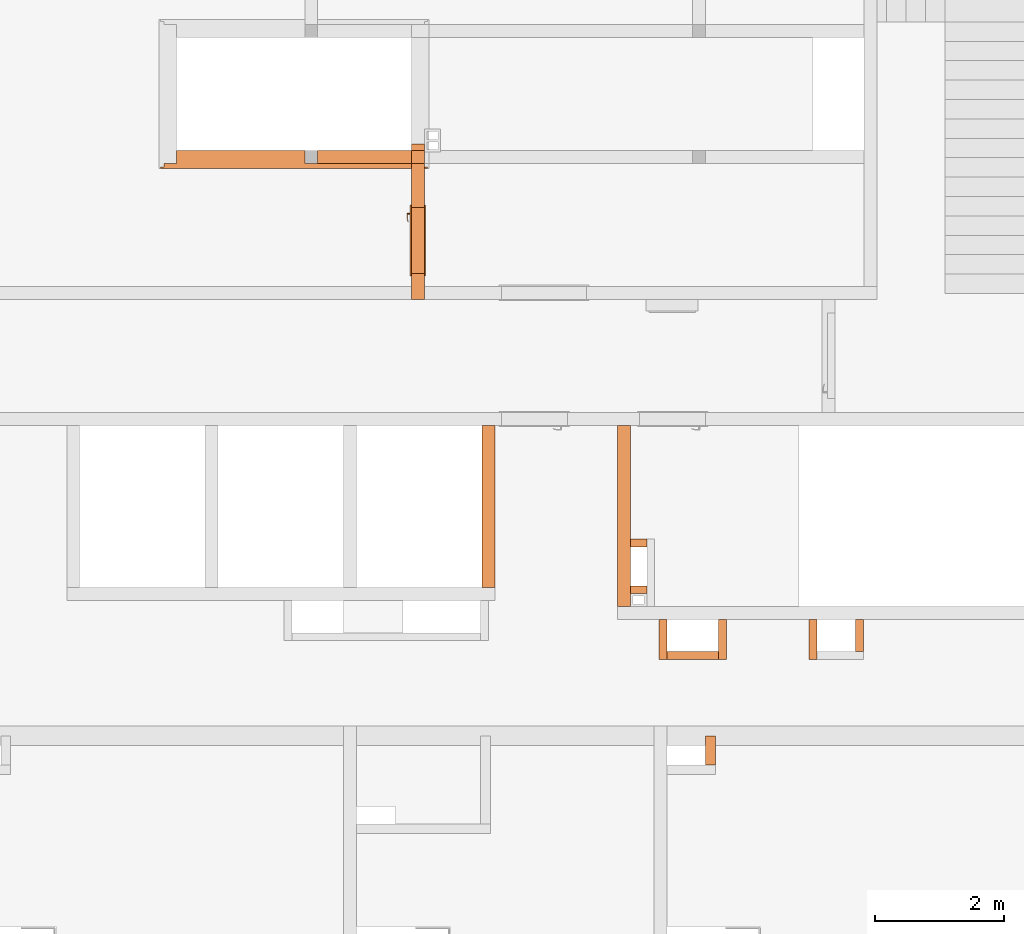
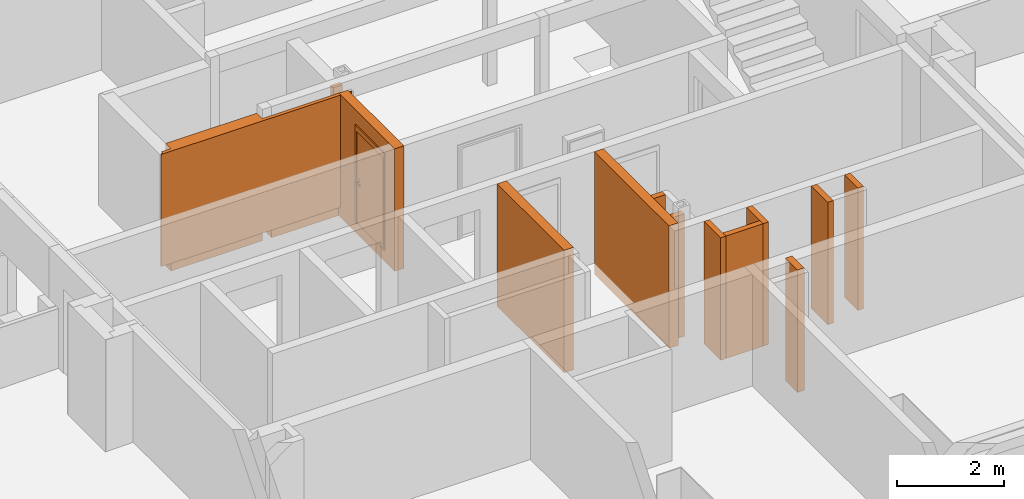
# One storey, part 20 of 30: 13 proxies, 1 opening.
"""IFC2X3 building model written with IfcOpenShell, lengths in millimetres."""

from ifc_helpers import new_model, entity, si_unit, converted_unit, derived_unit, money_unit, direction, frame, origin_with_axes, origin_2d_with_axis, place, context, subcontext, project, spatial, rectangle, extrude, open_shell, faceted_brep, surface_model, material, material_list, type_object, element, fill, save


model = new_model("IFC2X3")

# Units and contexts
model_context = context("Model", 3, precision=0.01, world=origin_with_axes(), true_north=direction((0.34421633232, 0.938890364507)))
body_context = subcontext(model_context, "Body", "Model", "MODEL_VIEW")
ifc_project = project(units=[si_unit("LENGTHUNIT", "METRE", prefix="MILLI"), si_unit("AREAUNIT", "SQUARE_METRE"), si_unit("VOLUMEUNIT", "CUBIC_METRE"), converted_unit("PLANEANGLEUNIT", "DEGREE", entity("IfcPlaneAngleMeasure", 0.0174532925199), si_unit("PLANEANGLEUNIT", "RADIAN"), dimensions=[0, 0, 0, 0, 0, 0, 0]), si_unit("SOLIDANGLEUNIT", "STERADIAN"), money_unit("USD"), converted_unit("TIMEUNIT", "Year", entity("IfcTimeMeasure", 31556926.0), si_unit("TIMEUNIT", "SECOND"), dimensions=[0, 0, 1, 0, 0, 0, 0]), si_unit("MASSUNIT", "GRAM", prefix="KILO"), si_unit("THERMODYNAMICTEMPERATUREUNIT", "DEGREE_CELSIUS"), si_unit("LUMINOUSINTENSITYUNIT", "LUMEN"), si_unit("ENERGYUNIT", "JOULE", prefix="MEGA"), derived_unit("THERMALCONDUCTANCEUNIT", [(si_unit("POWERUNIT", "WATT"), 1), (si_unit("LENGTHUNIT", "METRE"), -1), (si_unit("THERMODYNAMICTEMPERATUREUNIT", "KELVIN"), -1)]), derived_unit("SPECIFICHEATCAPACITYUNIT", [(si_unit("ENERGYUNIT", "JOULE"), 1), (si_unit("MASSUNIT", "GRAM", prefix="KILO"), -1), (si_unit("THERMODYNAMICTEMPERATUREUNIT", "KELVIN"), -1)]), derived_unit("MASSDENSITYUNIT", [(si_unit("MASSUNIT", "GRAM", prefix="KILO"), 1), (si_unit("VOLUMEUNIT", "CUBIC_METRE"), -1)])], contexts=[model_context])

# Site, building, storey
site_placement = place(None, origin_with_axes())
site = spatial("IfcSite", under=ifc_project, at=site_placement, Name="USTRONIE MORSKIE", CompositionType="ELEMENT")
building_placement = place(site_placement, origin_with_axes())
building = spatial("IfcBuilding", under=site, at=building_placement, Name="Budynek", CompositionType="ELEMENT")
storey_placement = place(building_placement, frame((0.0, 0.0, 16000.0), z_axis=(0.0, 0.0, 1.0), x_axis=(1.0, 0.0, 0.0)))
storey = spatial("IfcBuildingStorey", under=building, at=storey_placement, Name="ANTRESOLA - KOND. TECHNICZNA", CompositionType="ELEMENT", Elevation=16000.0)

# Proxies
ifc_material_1 = material(Name="Bloczki silikatowe")
building_element_proxy_type_1 = type_object("IfcBuildingElementProxyType", Name="Bloczki silikatowe 120", PredefinedType="NOTDEFINED")
proxy_1_placement = place(storey_placement, frame((390317.920919, 729201.199036, -160.0), z_axis=(0.0, 0.0, 1.0), x_axis=(1.0, 0.0, 0.0)))
element("IfcBuildingElementProxy", 1, at=proxy_1_placement, inside=storey, type_object=building_element_proxy_type_1, material=ifc_material_1, Name="SW-04", context=body_context, shape_type="Brep", body=[
    faceted_brep([(800.00090117, -120.0, 2800.0), (800.00090117, 0.0, 2800.0), (0.0, 0.0, 2800.0), (0.0, -120.0, 2800.0), (800.00090117, -120.0, 0.0), (800.00090117, 0.0, 0.0), (0.0, 0.0, 0.0), (0.0, -120.0, 0.0)], [[[0, 1, 2, 3]], [[1, 0, 4, 5]], [[1, 5, 6, 2]], [[7, 3, 2, 6]], [[4, 0, 3, 7]], [[5, 4, 7, 6]]]),
])
proxy_2_placement = place(storey_placement, frame((392637.920919, 729801.199036, -160.0), z_axis=(0.0, 0.0, 1.0), x_axis=(0.0, -1.0, 0.0)))
element("IfcBuildingElementProxy", 2, at=proxy_2_placement, inside=storey, type_object=building_element_proxy_type_1, material=ifc_material_1, Name="SW-04", context=body_context, shape_type="Brep", body=[
    faceted_brep([(720.0, -120.0, 2800.0), (720.0, 0.0, 2800.0), (100.0, 0.0, 2800.0), (100.0, -120.0, 2800.0), (720.0, -120.0, 0.0), (720.0, 0.0, 0.0), (100.0, 0.0, 0.0), (100.0, -120.0, 0.0)], [[[0, 1, 2, 3]], [[1, 0, 4, 5]], [[1, 5, 6, 2]], [[7, 3, 2, 6]], [[4, 0, 3, 7]], [[5, 4, 7, 6]]]),
])
proxy_3_placement = place(storey_placement, frame((393237.920919, 729201.199036, -160.0), z_axis=(0.0, 0.0, 1.0), x_axis=(0.0, 1.0, 0.0)))
element("IfcBuildingElementProxy", 3, at=proxy_3_placement, inside=storey, type_object=building_element_proxy_type_1, material=ifc_material_1, Name="SW-04", context=body_context, shape_type="Brep", body=[
    faceted_brep([(500.0, -120.0, 2800.0), (500.0, 0.0, 2800.0), (0.0, 0.0, 2800.0), (0.0, -120.0, 2800.0), (500.0, -120.0, 0.0), (500.0, 0.0, 0.0), (0.0, 0.0, 0.0), (0.0, -120.0, 0.0)], [[[0, 1, 2, 3]], [[1, 0, 4, 5]], [[1, 5, 6, 2]], [[7, 3, 2, 6]], [[4, 0, 3, 7]], [[5, 4, 7, 6]]]),
])
proxy_4_placement = place(storey_placement, frame((390317.920919, 729801.199036, -160.0), z_axis=(0.0, 0.0, 1.0), x_axis=(0.0, -1.0, 0.0)))
element("IfcBuildingElementProxy", 4, at=proxy_4_placement, inside=storey, type_object=building_element_proxy_type_1, material=ifc_material_1, Name="SW-04", context=body_context, shape_type="Brep", body=[
    faceted_brep([(720.0, -120.0, 2800.0), (720.0, 0.0, 2800.0), (100.0, 0.0, 2800.0), (100.0, -120.0, 2800.0), (720.0, -120.0, 0.0), (720.0, 0.0, 0.0), (100.0, 0.0, 0.0), (100.0, -120.0, 0.0)], [[[0, 1, 2, 3]], [[1, 0, 4, 5]], [[1, 5, 6, 2]], [[7, 3, 2, 6]], [[4, 0, 3, 7]], [[5, 4, 7, 6]]]),
])
proxy_5_placement = place(storey_placement, frame((391117.92182, 729801.199036, -160.0), z_axis=(0.0, 0.0, 1.0), x_axis=(0.0, -1.0, 0.0)))
element("IfcBuildingElementProxy", 5, at=proxy_5_placement, inside=storey, type_object=building_element_proxy_type_1, material=ifc_material_1, Name="SW-04", context=body_context, shape_type="Brep", body=[
    faceted_brep([(720.0, 120.0, 0.0), (720.0, 0.0, 0.0), (100.0, 0.0, 0.0), (100.0, 120.0, 0.0), (720.0, 120.0, 2800.0), (720.0, 0.0, 2800.0), (100.0, 0.0, 2800.0), (100.0, 120.0, 2800.0)], [[[0, 1, 2, 3]], [[1, 0, 4, 5]], [[1, 5, 6, 2]], [[7, 3, 2, 6]], [[4, 0, 3, 7]], [[5, 4, 7, 6]]]),
])
for number, where, z_axis, x_axis, name in (
    (6, (389757.920919, 730821.199036, -230.0), (0.0, 0.0, 1.0), (1.0, 0.0, 0.0), "SW-04"),
    (7, (389757.920919, 730101.199036, -230.0), (0.0, 0.0, 1.0), (1.0, 0.0, 0.0), "SW-04"),
):
    element("IfcBuildingElementProxy", number, at=place(storey_placement, frame(where, z_axis=z_axis, x_axis=x_axis)), inside=storey, type_object=building_element_proxy_type_1, material=ifc_material_1, Name=name, context=body_context, shape_type="Brep", body=[
        faceted_brep([(250.0, 0.0, 2870.0), (250.0, 0.0, 70.0), (250.0, 120.0, 70.0), (250.0, 120.0, 2870.0), (0.0, 0.0, 2870.0), (0.0, 0.0, 70.0), (0.0, 120.0, 70.0), (0.0, 120.0, 2870.0)], [[[0, 1, 2, 3]], [[4, 5, 1, 0]], [[5, 6, 2, 1]], [[3, 2, 6, 7]], [[4, 0, 3, 7]], [[7, 6, 5, 4]]]),
    ])
building_element_proxy_type_2 = type_object("IfcBuildingElementProxyType", Name="Bloczki silikatowe 150", PredefinedType="NOTDEFINED")
proxy_6_placement = place(storey_placement, frame((390917.92182, 727451.199036, -160.0), z_axis=(0.0, 0.0, 1.0), x_axis=(0.0, 1.0, 0.0)))
element("IfcBuildingElementProxy", 8, at=proxy_6_placement, inside=storey, type_object=building_element_proxy_type_2, material=ifc_material_1, Name="SW-03", context=body_context, shape_type="Brep", body=[
    faceted_brep([(450.0, -150.0, 2800.0), (450.0, 0.0, 2800.0), (0.0, 0.0, 2800.0), (0.0, -150.0, 2800.0), (450.0, -150.0, 0.0), (450.0, 0.0, 0.0), (0.0, 0.0, 0.0), (0.0, -150.0, 0.0)], [[[0, 1, 2, 3]], [[1, 0, 4, 5]], [[1, 5, 6, 2]], [[7, 3, 2, 6]], [[4, 0, 3, 7]], [[5, 4, 7, 6]]]),
])
ifc_material_2 = material(Name="Beton konstrukcyjny B25")
building_element_proxy_type_3 = type_object("IfcBuildingElementProxyType", Name="Beton konstrukcyjny B25 200", PredefinedType="NOTDEFINED")
proxy_7_placement = place(storey_placement, frame((389657.920919, 729801.199036, -160.0), z_axis=(0.0, 0.0, 1.0), x_axis=(0.0, 1.0, 0.0)))
element("IfcBuildingElementProxy", 9, at=proxy_7_placement, inside=storey, type_object=building_element_proxy_type_3, material=ifc_material_2, Name="SW-01", context=body_context, shape_type="Brep", body=[
    faceted_brep([(2900.0, 100.0, 0.0), (2900.0, -100.0, 0.0), (100.0, -100.0, 0.0), (100.0, 100.0, 0.0), (2900.0, 100.0, 2800.0), (2900.0, -100.0, 2800.0), (100.0, -100.0, 2800.0), (100.0, 100.0, 2800.0)], [[[0, 1, 2, 3]], [[1, 0, 4, 5]], [[1, 5, 6, 2]], [[7, 3, 2, 6]], [[4, 0, 3, 7]], [[5, 4, 7, 6]]]),
])
proxy_8_placement = place(storey_placement, frame((387557.920919, 730091.199036, -160.0), z_axis=(0.0, 0.0, 1.0), x_axis=(0.0, 1.0, 0.0)))
element("IfcBuildingElementProxy", 10, at=proxy_8_placement, inside=storey, type_object=building_element_proxy_type_3, material=ifc_material_2, Name="SW-01", context=body_context, shape_type="Brep", body=[
    faceted_brep([(2610.0, 100.0, 0.0), (2610.0, -100.0, 0.0), (100.0, -100.0, 0.0), (100.0, 100.0, 0.0), (2610.0, 100.0, 2800.0), (2610.0, -100.0, 2800.0), (100.0, -100.0, 2800.0), (100.0, 100.0, 2800.0)], [[[0, 1, 2, 3]], [[1, 0, 4, 5]], [[1, 5, 6, 2]], [[7, 3, 2, 6]], [[4, 0, 3, 7]], [[5, 4, 7, 6]]]),
])

# Proxies, opening
proxy_9_placement = place(storey_placement, frame((386467.920919, 736851.199036, -160.0), z_axis=(0.0, 0.0, 1.0), x_axis=(0.0, -1.0, 0.0)))
proxy_9 = element("IfcBuildingElementProxy", 11, at=proxy_9_placement, inside=storey, type_object=building_element_proxy_type_3, material=ifc_material_2, Name="SW-01", context=body_context, shape_type="Brep", body=[
    faceted_brep([(-200.0, -100.0, 2800.0), (-100.0, -100.0, 2800.0), (-100.0, 100.0, 2800.0), (-200.0, 100.0, 2800.0), (100.0, -100.0, 2600.0), (-100.0, -100.0, 2600.0), (-200.0, -100.0, 0.0), (2199.99526878, -100.0, 0.0), (2199.99526878, -100.0, 2800.0), (100.0, -100.0, 2800.0), (-100.0, 100.0, 2600.0), (100.0, 100.0, 2600.0), (100.0, 100.0, 2800.0), (2199.99526878, 100.0, 2800.0), (2199.99526878, 100.0, 0.0), (-200.0, 100.0, 0.0)], [[[0, 1, 2, 3]], [[4, 5, 1, 0, 6, 7, 8, 9]], [[5, 10, 2, 1]], [[10, 11, 12, 13, 14, 15, 3, 2]], [[15, 6, 0, 3]], [[4, 11, 10, 5]], [[14, 7, 6, 15]], [[14, 13, 8, 7]], [[13, 12, 9, 8]], [[4, 9, 12, 11]]]),
])
opening_placement = place(proxy_9_placement, frame((1289.99757548, 0.0, 250.0), z_axis=(0.0, 0.0, 1.0), x_axis=(1.0, 0.0, 0.0)))
opening = element("IfcOpeningElement", 12, at=opening_placement, cuts=proxy_9, Name="Dw.02", context=body_context, shape_type="SweptSolid", body=[
    extrude(rectangle(XDim=1020.0, YDim=2120.0, at=origin_2d_with_axis()), frame((0.0, 200.0, 1060.0), z_axis=(0.0, 1.0, 0.0), x_axis=(1.0, 0.0, 0.0)), (0.0, 0.0, -1.0), 600.0),
    extrude(rectangle(XDim=1094.0, YDim=2227.0, at=origin_2d_with_axis()), frame((0.0, 100.0, 1113.5), z_axis=(0.0, 1.0, 0.0), x_axis=(1.0, 0.0, 0.0)), (0.0, 0.0, 1.0), 200.0),
    extrude(rectangle(XDim=1094.0, YDim=2227.0, at=origin_2d_with_axis()), frame((0.0, -100.0, 1113.5), z_axis=(0.0, -1.0, 0.0), x_axis=(1.0, 0.0, 0.0)), (0.0, 0.0, 1.0), 200.0),
])
building_element_proxy_type_4 = type_object("IfcBuildingElementProxyType", Name="Drzwi 23", PredefinedType="NOTDEFINED")
proxy_10_placement = place(opening_placement, frame((450.0, 0.0, 0.0), z_axis=(0.0, 0.0, 1.0), x_axis=(-1.0, 0.0, 0.0)))
proxy_10 = element("IfcBuildingElementProxy", 13, at=proxy_10_placement, inside=storey, type_object=building_element_proxy_type_4, Name="Dw.02", context=body_context, shape_type="SurfaceModel", body=[
    faceted_brep([(960.0, -15.0, 0.0), (960.0, -100.0, 0.0), (935.0, -100.0, 0.0), (935.0, -15.0, 0.0), (960.0, -15.0, 2120.0), (960.0, -100.0, 2120.0), (935.0, -100.0, 2095.0), (935.0, -15.0, 2095.0)], [[[0, 1, 2, 3]], [[4, 5, 1, 0]], [[1, 5, 6, 2]], [[3, 2, 6, 7]], [[0, 3, 7, 4]], [[7, 6, 5, 4]]]),
    faceted_brep([(-59.9999999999, -15.0, 2120.0), (-59.9999999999, -100.0, 2120.0), (-35.0, -100.0, 2095.0), (-35.0, -15.0, 2095.0), (-59.9999999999, -15.0, 0.0), (-59.9999999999, -100.0, 0.0), (-35.0, -100.0, 0.0), (-35.0, -15.0, 0.0)], [[[0, 1, 2, 3]], [[4, 5, 1, 0]], [[1, 5, 6, 2]], [[3, 2, 6, 7]], [[0, 3, 7, 4]], [[7, 6, 5, 4]]]),
    faceted_brep([(935.0, -15.0, 2095.0), (935.0, -100.0, 2095.0), (-35.0, -100.0, 2095.0), (-35.0, -15.0, 2095.0), (960.0, -15.0, 2120.0), (960.0, -100.0, 2120.0), (-59.9999999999, -100.0, 2120.0), (-59.9999999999, -15.0, 2120.0)], [[[0, 1, 2, 3]], [[4, 5, 1, 0]], [[1, 5, 6, 2]], [[3, 2, 6, 7]], [[0, 3, 7, 4]], [[7, 6, 5, 4]]]),
    faceted_brep([(997.0, -119.0, 0.0), (947.0, -119.0, 0.0), (947.0, -100.0, 0.0), (997.0, -100.0, 0.0), (997.0, -119.0, 2227.0), (947.0, -119.0, 2107.0), (947.0, -100.0, 2107.0), (997.0, -100.0, 2227.0)], [[[0, 1, 2, 3]], [[0, 4, 5, 1]], [[1, 5, 6, 2]], [[3, 2, 6, 7]], [[4, 0, 3, 7]], [[5, 4, 7, 6]]]),
    faceted_brep([(-97.0, -119.0, 2227.0), (-46.9999999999, -119.0, 2107.0), (-46.9999999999, -100.0, 2107.0), (-97.0, -100.0, 2227.0), (-97.0, -119.0, 0.0), (-46.9999999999, -119.0, 0.0), (-46.9999999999, -100.0, 0.0), (-97.0, -100.0, 0.0)], [[[0, 1, 2, 3]], [[0, 4, 5, 1]], [[1, 5, 6, 2]], [[3, 2, 6, 7]], [[4, 0, 3, 7]], [[5, 4, 7, 6]]]),
    faceted_brep([(997.0, -119.0, 2227.0), (947.0, -119.0, 2107.0), (947.0, -100.0, 2107.0), (997.0, -100.0, 2227.0), (-97.0, -119.0, 2227.0), (-46.9999999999, -119.0, 2107.0), (-46.9999999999, -100.0, 2107.0), (-97.0, -100.0, 2227.0)], [[[0, 1, 2, 3]], [[0, 4, 5, 1]], [[1, 5, 6, 2]], [[3, 2, 6, 7]], [[4, 0, 3, 7]], [[5, 4, 7, 6]]]),
    faceted_brep([(997.0, 119.0, 0.0), (997.0, 100.0, 0.0), (947.0, 100.0, 0.0), (947.0, 119.0, 0.0), (997.0, 119.0, 2227.0), (997.0, 100.0, 2227.0), (947.0, 100.0, 2107.0), (947.0, 119.0, 2107.0)], [[[0, 1, 2, 3]], [[4, 5, 1, 0]], [[1, 5, 6, 2]], [[3, 2, 6, 7]], [[0, 3, 7, 4]], [[7, 6, 5, 4]]]),
    faceted_brep([(-97.0, 119.0, 2227.0), (-97.0, 100.0, 2227.0), (-46.9999999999, 100.0, 2107.0), (-46.9999999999, 119.0, 2107.0), (-97.0, 119.0, 0.0), (-97.0, 100.0, 0.0), (-46.9999999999, 100.0, 0.0), (-46.9999999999, 119.0, 0.0)], [[[0, 1, 2, 3]], [[4, 5, 1, 0]], [[1, 5, 6, 2]], [[3, 2, 6, 7]], [[0, 3, 7, 4]], [[7, 6, 5, 4]]]),
    faceted_brep([(997.0, 119.0, 2227.0), (997.0, 100.0, 2227.0), (947.0, 100.0, 2107.0), (947.0, 119.0, 2107.0), (-97.0, 119.0, 2227.0), (-97.0, 100.0, 2227.0), (-46.9999999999, 100.0, 2107.0), (-46.9999999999, 119.0, 2107.0)], [[[0, 1, 2, 3]], [[4, 5, 1, 0]], [[1, 5, 6, 2]], [[3, 2, 6, 7]], [[0, 3, 7, 4]], [[7, 6, 5, 4]]]),
    faceted_brep([(900.0, 60.0, 0.0), (900.0, -15.0, 0.0), (900.0, -15.0, 2050.0), (900.0, 60.0, 2050.0), (912.0, 60.0, 0.0), (912.0, 100.0, 0.0), (960.0, 100.0, 0.0), (960.0, -15.0, 0.0), (960.0, -15.0, 2050.0), (912.0, 60.0, 2050.0), (960.0, 100.0, 2050.0), (912.0, 100.0, 2050.0)], [[[0, 1, 2, 3]], [[4, 5, 6, 7, 1, 0]], [[1, 7, 8, 2]], [[9, 3, 2, 8, 10, 11]], [[9, 4, 0, 3]], [[11, 5, 4, 9]], [[11, 10, 6, 5]], [[6, 10, 8, 7]]]),
    faceted_brep([(-11.9999999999, 60.0, 2050.0), (-11.9999999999, 100.0, 2050.0), (-59.9999999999, 100.0, 2050.0), (-59.9999999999, -15.0, 2050.0), (0.0, -15.0, 2050.0), (0.0, 60.0, 2050.0), (-11.9999999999, 60.0, 0.0), (-11.9999999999, 100.0, 0.0), (-59.9999999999, 100.0, 0.0), (-59.9999999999, -15.0, 0.0), (0.0, -15.0, 0.0), (0.0, 60.0, 0.0)], [[[0, 1, 2, 3, 4, 5]], [[0, 6, 7, 1]], [[7, 8, 2, 1]], [[2, 8, 9, 3]], [[3, 9, 10, 4]], [[5, 4, 10, 11]], [[5, 11, 6, 0]], [[6, 11, 10, 9, 8, 7]]]),
    faceted_brep([(912.0, 100.0, 2062.0), (-11.9999999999, 100.0, 2062.0), (-11.9999999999, 100.0, 2050.0), (-59.9999999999, 100.0, 2050.0), (-59.9999999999, 100.0, 2120.0), (960.0, 100.0, 2120.0), (960.0, 100.0, 2050.0), (912.0, 100.0, 2050.0), (912.0, 60.0, 2062.0), (-11.9999999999, 60.0, 2062.0), (-11.9999999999, 60.0, 2050.0), (0.0, 60.0, 2050.0), (0.0, -15.0, 2050.0), (-59.9999999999, -15.0, 2050.0), (-59.9999999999, -15.0, 2120.0), (960.0, -15.0, 2120.0), (960.0, -15.0, 2050.0), (912.0, 60.0, 2050.0), (900.0, -15.0, 2050.0), (900.0, 60.0, 2050.0)], [[[0, 1, 2, 3, 4, 5, 6, 7]], [[0, 8, 9, 1]], [[1, 9, 10, 2]], [[10, 11, 12, 13, 3, 2]], [[4, 3, 13, 14]], [[5, 4, 14, 15]], [[6, 5, 15, 16]], [[17, 7, 6, 16, 18, 19]], [[7, 17, 8, 0]], [[10, 9, 8, 17, 19, 11]], [[19, 18, 12, 11]], [[12, 18, 16, 15, 14, 13]]]),
    faceted_brep([(890.5, 60.0, 1060.0), (833.5, 60.0, 1060.0), (833.5, 57.0, 1060.0), (890.5, 57.0, 1060.0), (890.5, 60.0, 870.0), (833.5, 60.0, 870.0), (833.5, 57.0, 870.0), (890.5, 57.0, 870.0)], [[[0, 1, 2, 3]], [[0, 4, 5, 1]], [[1, 5, 6, 2]], [[3, 2, 6, 7]], [[4, 0, 3, 7]], [[5, 4, 7, 6]]]),
    faceted_brep([(862.0, -3.99999999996, 990.0), (867.0, -3.99999999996, 991.339745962), (867.0, -11.0, 991.339745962), (862.0, -11.0, 990.0), (837.0, -3.99999999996, 990.0), (837.0, -3.99999999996, 1010.0), (862.0, -3.99999999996, 1010.0), (867.0, -3.99999999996, 1008.66025404), (870.660254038, -3.99999999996, 1005.0), (872.0, -3.99999999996, 1000.0), (870.660254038, -3.99999999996, 995.0), (870.660254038, -11.0, 995.0), (872.0, -11.0, 1000.0), (870.660254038, -11.0, 1005.0), (867.0, -11.0, 1008.66025404), (862.0, -11.0, 1010.0), (837.0, -11.0, 1010.0), (837.0, -11.0, 990.0)], [[[0, 1, 2, 3]], [[0, 4, 5, 6, 7, 8, 9, 10, 1]], [[1, 10, 11, 2]], [[3, 2, 11, 12, 13, 14, 15, 16, 17]], [[4, 0, 3, 17]], [[5, 4, 17, 16]], [[6, 5, 16, 15]], [[7, 6, 15, 14]], [[8, 7, 14, 13]], [[9, 8, 13, 12]], [[10, 9, 12, 11]]]),
    surface_model("IfcShellBasedSurfaceModel", [(837.0, -3.99999999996, 1010.0), (823.901717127, -3.99999999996, 1009.60730092), (823.596090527, -11.0, 1009.60730092), (837.0, -3.99999999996, 990.0), (823.901717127, -3.99999999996, 990.392699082), (796.890283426, -8.66354462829, 1008.82190275), (837.0, -11.0, 1010.0), (837.0, -11.0, 990.0), (797.804837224, -1.71681885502, 991.178097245), (797.804837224, -1.71681885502, 1008.82190275), (796.890283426, -8.66354462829, 991.178097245), (823.596090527, -11.0, 990.392699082), (772.006256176, 2.83216704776, 991.963495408), (772.006256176, 2.83216704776, 1008.03650459), (770.489735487, -4.00841572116, 1008.03650459), (770.489735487, -4.00841572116, 991.963495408), (746.702316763, 9.61233717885, 992.748893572), (746.702316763, 9.61233717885, 1007.25110643), (744.59537082, 2.9299583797, 1007.25110643), (744.59537082, 2.9299583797, 992.748893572), (738.829442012, 12.4778292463, 993.0), (738.829442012, 12.4778292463, 1007.0), (736.538795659, 5.86231192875, 1007.0), (736.538795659, 5.86231192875, 993.0)], [open_shell([[[0, 1, 2]], [[0, 3, 4, 1]], [[1, 5, 2]], [[0, 2, 6]], [[4, 3, 7]], [[1, 4, 8, 9]], [[1, 9, 5]], [[2, 5, 10, 11]], [[6, 2, 11, 7]], [[4, 7, 11]], [[8, 4, 11]], [[9, 8, 12, 13]], [[9, 14, 5]], [[5, 14, 15, 10]], [[8, 11, 10]], [[12, 8, 10]], [[13, 12, 16, 17]], [[9, 13, 14]], [[14, 18, 19, 15]], [[12, 10, 15]], [[16, 12, 15]], [[17, 16, 20, 21]], [[13, 17, 18]], [[13, 18, 14]], [[18, 22, 23, 19]], [[16, 15, 19]], [[20, 16, 19]], [[21, 20, 23, 22]], [[17, 21, 22]], [[17, 22, 18]], [[20, 19, 23]]])]),
    faceted_brep([(851.607695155, 47.0, 994.0), (850.0, 47.0, 1000.0), (849.0, 57.0, 1000.0), (850.741669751, 57.0, 993.5), (856.0, 47.0, 989.607695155), (862.0, 47.0, 988.0), (868.0, 47.0, 989.607695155), (872.392304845, 47.0, 994.0), (874.0, 47.0, 1000.0), (872.392304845, 47.0, 1006.0), (868.0, 47.0, 1010.39230485), (862.0, 47.0, 1012.0), (856.0, 47.0, 1010.39230485), (851.607695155, 47.0, 1006.0), (850.741669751, 57.0, 1006.5), (855.5, 57.0, 1011.25833025), (862.0, 57.0, 1013.0), (868.5, 57.0, 1011.25833025), (873.258330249, 57.0, 1006.5), (875.0, 57.0, 1000.0), (873.258330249, 57.0, 993.5), (868.5, 57.0, 988.741669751), (862.0, 57.0, 987.0), (855.5, 57.0, 988.741669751)], [[[0, 1, 2, 3]], [[1, 0, 4, 5, 6, 7, 8, 9, 10, 11, 12, 13]], [[1, 13, 14, 2]], [[2, 14, 15, 16, 17, 18, 19, 20, 21, 22, 23, 3]], [[4, 0, 3, 23]], [[5, 4, 23, 22]], [[6, 5, 22, 21]], [[7, 6, 21, 20]], [[8, 7, 20, 19]], [[9, 8, 19, 18]], [[10, 9, 18, 17]], [[11, 10, 17, 16]], [[12, 11, 16, 15]], [[13, 12, 15, 14]]]),
    faceted_brep([(844.679491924, 53.0, 895.0), (842.0, 53.0, 905.0), (840.0, 57.0, 905.0), (842.947441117, 57.0, 894.0), (852.0, 53.0, 887.679491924), (862.0, 53.0, 885.0), (872.0, 53.0, 887.679491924), (879.320508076, 53.0, 895.0), (882.0, 53.0, 905.0), (879.320508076, 53.0, 915.0), (872.0, 53.0, 922.320508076), (862.0, 53.0, 925.0), (852.0, 53.0, 922.320508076), (844.679491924, 53.0, 915.0), (842.947441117, 57.0, 916.0), (851.0, 57.0, 924.052558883), (862.0, 57.0, 927.0), (873.0, 57.0, 924.052558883), (881.052558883, 57.0, 916.0), (884.0, 57.0, 905.0), (881.052558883, 57.0, 894.0), (873.0, 57.0, 885.947441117), (862.0, 57.0, 883.0), (851.0, 57.0, 885.947441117)], [[[0, 1, 2, 3]], [[1, 0, 4, 5, 6, 7, 8, 9, 10, 11, 12, 13]], [[1, 13, 14, 2]], [[2, 14, 15, 16, 17, 18, 19, 20, 21, 22, 23, 3]], [[4, 0, 3, 23]], [[5, 4, 23, 22]], [[6, 5, 22, 21]], [[7, 6, 21, 20]], [[8, 7, 20, 19]], [[9, 8, 19, 18]], [[10, 9, 18, 17]], [[11, 10, 17, 16]], [[12, 11, 16, 15]], [[13, 12, 15, 14]]]),
    faceted_brep([(857.050252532, 51.0, 909.050252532), (855.0, 51.0, 914.0), (854.0, 53.0, 914.0), (856.343145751, 53.0, 908.343145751), (862.0, 51.0, 907.0), (866.949747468, 51.0, 909.050252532), (869.0, 51.0, 914.0), (866.949747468, 51.0, 918.949747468), (862.0, 51.0, 921.0), (857.050252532, 51.0, 918.949747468), (856.343145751, 53.0, 919.656854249), (862.0, 53.0, 922.0), (867.65685425, 53.0, 919.656854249), (870.0, 53.0, 914.0), (867.65685425, 53.0, 908.343145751), (862.0, 53.0, 906.0)], [[[0, 1, 2, 3]], [[1, 0, 4, 5, 6, 7, 8, 9]], [[1, 9, 10, 2]], [[2, 10, 11, 12, 13, 14, 15, 3]], [[4, 0, 3, 15]], [[5, 4, 15, 14]], [[6, 5, 14, 13]], [[7, 6, 13, 12]], [[8, 7, 12, 11]], [[9, 8, 11, 10]]]),
    faceted_brep([(862.0, 47.0, 1010.0), (857.0, 47.0, 1008.66025404), (857.0, -3.99999999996, 1008.66025404), (862.0, -3.99999999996, 1010.0), (867.0, 47.0, 1008.66025404), (870.660254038, 47.0, 1005.0), (872.0, 47.0, 1000.0), (870.660254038, 47.0, 995.0), (867.0, 47.0, 991.339745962), (862.0, 47.0, 990.0), (857.0, 47.0, 991.339745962), (853.339745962, 47.0, 995.0), (852.0, 47.0, 1000.0), (853.339745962, 47.0, 1005.0), (853.339745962, -3.99999999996, 1005.0), (852.0, -3.99999999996, 1000.0), (853.339745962, -3.99999999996, 995.0), (857.0, -3.99999999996, 991.339745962), (862.0, -3.99999999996, 990.0), (867.0, -3.99999999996, 991.339745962), (870.660254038, -3.99999999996, 995.0), (872.0, -3.99999999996, 1000.0), (870.660254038, -3.99999999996, 1005.0), (867.0, -3.99999999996, 1008.66025404)], [[[0, 1, 2, 3]], [[0, 4, 5, 6, 7, 8, 9, 10, 11, 12, 13, 1]], [[1, 13, 14, 2]], [[3, 2, 14, 15, 16, 17, 18, 19, 20, 21, 22, 23]], [[4, 0, 3, 23]], [[5, 4, 23, 22]], [[6, 5, 22, 21]], [[7, 6, 21, 20]], [[8, 7, 20, 19]], [[9, 8, 19, 18]], [[10, 9, 18, 17]], [[11, 10, 17, 16]], [[12, 11, 16, 15]], [[13, 12, 15, 14]]]),
    faceted_brep([(890.5, 100.0, 1060.0), (890.5, 103.0, 1060.0), (833.5, 103.0, 1060.0), (833.5, 100.0, 1060.0), (890.5, 100.0, 870.0), (890.5, 103.0, 870.0), (833.5, 103.0, 870.0), (833.5, 100.0, 870.0)], [[[0, 1, 2, 3]], [[4, 5, 1, 0]], [[1, 5, 6, 2]], [[3, 2, 6, 7]], [[0, 3, 7, 4]], [[7, 6, 5, 4]]]),
    faceted_brep([(862.0, 164.0, 990.0), (862.0, 171.0, 990.0), (867.0, 171.0, 991.339745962), (867.0, 164.0, 991.339745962), (837.0, 164.0, 990.0), (837.0, 171.0, 990.0), (837.0, 171.0, 1010.0), (862.0, 171.0, 1010.0), (867.0, 171.0, 1008.66025404), (870.660254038, 171.0, 1005.0), (872.0, 171.0, 1000.0), (870.660254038, 171.0, 995.0), (870.660254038, 164.0, 995.0), (872.0, 164.0, 1000.0), (870.660254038, 164.0, 1005.0), (867.0, 164.0, 1008.66025404), (862.0, 164.0, 1010.0), (837.0, 164.0, 1010.0)], [[[0, 1, 2, 3]], [[4, 5, 1, 0]], [[1, 5, 6, 7, 8, 9, 10, 11, 2]], [[3, 2, 11, 12]], [[0, 3, 12, 13, 14, 15, 16, 17, 4]], [[17, 6, 5, 4]], [[16, 7, 6, 17]], [[15, 8, 7, 16]], [[14, 9, 8, 15]], [[13, 10, 9, 14]], [[12, 11, 10, 13]]]),
    surface_model("IfcShellBasedSurfaceModel", [(837.0, 164.0, 1010.0), (823.596090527, 171.0, 1009.60730092), (823.901717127, 164.0, 1009.60730092), (837.0, 171.0, 1010.0), (796.890283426, 168.663544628, 1008.82190275), (823.901717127, 164.0, 990.392699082), (837.0, 164.0, 990.0), (837.0, 171.0, 990.0), (823.596090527, 171.0, 990.392699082), (796.890283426, 168.663544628, 991.178097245), (797.804837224, 161.716818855, 1008.82190275), (797.804837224, 161.716818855, 991.178097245), (770.489735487, 164.008415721, 991.963495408), (770.489735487, 164.008415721, 1008.03650459), (772.006256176, 157.167832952, 1008.03650459), (772.006256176, 157.167832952, 991.963495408), (744.59537082, 157.07004162, 992.748893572), (744.59537082, 157.07004162, 1007.25110643), (746.702316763, 150.387662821, 1007.25110643), (746.702316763, 150.387662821, 992.748893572), (736.538795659, 154.137688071, 993.0), (736.538795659, 154.137688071, 1007.0), (738.829442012, 147.522170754, 1007.0), (738.829442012, 147.522170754, 993.0)], [open_shell([[[0, 1, 2]], [[0, 3, 1]], [[2, 1, 4]], [[0, 2, 5, 6]], [[3, 7, 8, 1]], [[1, 8, 9, 4]], [[2, 4, 10]], [[2, 10, 11, 5]], [[5, 7, 6]], [[5, 8, 7]], [[11, 9, 8]], [[4, 9, 12, 13]], [[10, 4, 13]], [[10, 14, 15, 11]], [[11, 8, 5]], [[15, 9, 11]], [[15, 12, 9]], [[13, 12, 16, 17]], [[10, 13, 14]], [[14, 18, 19, 15]], [[19, 12, 15]], [[19, 16, 12]], [[17, 16, 20, 21]], [[14, 13, 17]], [[14, 17, 18]], [[18, 22, 23, 19]], [[23, 16, 19]], [[23, 20, 16]], [[22, 21, 20, 23]], [[18, 17, 21]], [[18, 21, 22]]])]),
    faceted_brep([(851.607695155, 113.0, 994.0), (850.741669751, 103.0, 993.5), (849.0, 103.0, 1000.0), (850.0, 113.0, 1000.0), (856.0, 113.0, 989.607695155), (855.5, 103.0, 988.741669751), (862.0, 103.0, 987.0), (868.5, 103.0, 988.741669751), (873.258330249, 103.0, 993.5), (875.0, 103.0, 1000.0), (873.258330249, 103.0, 1006.5), (868.5, 103.0, 1011.25833025), (862.0, 103.0, 1013.0), (855.5, 103.0, 1011.25833025), (850.741669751, 103.0, 1006.5), (851.607695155, 113.0, 1006.0), (856.0, 113.0, 1010.39230485), (862.0, 113.0, 1012.0), (868.0, 113.0, 1010.39230485), (872.392304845, 113.0, 1006.0), (874.0, 113.0, 1000.0), (872.392304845, 113.0, 994.0), (868.0, 113.0, 989.607695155), (862.0, 113.0, 988.0)], [[[0, 1, 2, 3]], [[4, 5, 1, 0]], [[2, 1, 5, 6, 7, 8, 9, 10, 11, 12, 13, 14]], [[3, 2, 14, 15]], [[3, 15, 16, 17, 18, 19, 20, 21, 22, 23, 4, 0]], [[23, 6, 5, 4]], [[22, 7, 6, 23]], [[21, 8, 7, 22]], [[20, 9, 8, 21]], [[19, 10, 9, 20]], [[18, 11, 10, 19]], [[17, 12, 11, 18]], [[16, 13, 12, 17]], [[15, 14, 13, 16]]]),
    faceted_brep([(844.679491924, 107.0, 895.0), (842.947441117, 103.0, 894.0), (840.0, 103.0, 905.0), (842.0, 107.0, 905.0), (852.0, 107.0, 887.679491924), (851.0, 103.0, 885.947441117), (862.0, 103.0, 883.0), (873.0, 103.0, 885.947441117), (881.052558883, 103.0, 894.0), (884.0, 103.0, 905.0), (881.052558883, 103.0, 916.0), (873.0, 103.0, 924.052558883), (862.0, 103.0, 927.0), (851.0, 103.0, 924.052558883), (842.947441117, 103.0, 916.0), (844.679491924, 107.0, 915.0), (852.0, 107.0, 922.320508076), (862.0, 107.0, 925.0), (872.0, 107.0, 922.320508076), (879.320508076, 107.0, 915.0), (882.0, 107.0, 905.0), (879.320508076, 107.0, 895.0), (872.0, 107.0, 887.679491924), (862.0, 107.0, 885.0)], [[[0, 1, 2, 3]], [[4, 5, 1, 0]], [[2, 1, 5, 6, 7, 8, 9, 10, 11, 12, 13, 14]], [[3, 2, 14, 15]], [[3, 15, 16, 17, 18, 19, 20, 21, 22, 23, 4, 0]], [[23, 6, 5, 4]], [[22, 7, 6, 23]], [[21, 8, 7, 22]], [[20, 9, 8, 21]], [[19, 10, 9, 20]], [[18, 11, 10, 19]], [[17, 12, 11, 18]], [[16, 13, 12, 17]], [[15, 14, 13, 16]]]),
    faceted_brep([(857.050252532, 109.0, 909.050252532), (856.343145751, 107.0, 908.343145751), (854.0, 107.0, 914.0), (855.0, 109.0, 914.0), (862.0, 109.0, 907.0), (862.0, 107.0, 906.0), (867.65685425, 107.0, 908.343145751), (870.0, 107.0, 914.0), (867.65685425, 107.0, 919.656854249), (862.0, 107.0, 922.0), (856.343145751, 107.0, 919.656854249), (857.050252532, 109.0, 918.949747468), (862.0, 109.0, 921.0), (866.949747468, 109.0, 918.949747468), (869.0, 109.0, 914.0), (866.949747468, 109.0, 909.050252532)], [[[0, 1, 2, 3]], [[4, 5, 1, 0]], [[2, 1, 5, 6, 7, 8, 9, 10]], [[3, 2, 10, 11]], [[3, 11, 12, 13, 14, 15, 4, 0]], [[15, 6, 5, 4]], [[14, 7, 6, 15]], [[13, 8, 7, 14]], [[12, 9, 8, 13]], [[11, 10, 9, 12]]]),
    faceted_brep([(862.0, 113.0, 1010.0), (862.0, 164.0, 1010.0), (857.0, 164.0, 1008.66025404), (857.0, 113.0, 1008.66025404), (867.0, 113.0, 1008.66025404), (867.0, 164.0, 1008.66025404), (870.660254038, 164.0, 1005.0), (872.0, 164.0, 1000.0), (870.660254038, 164.0, 995.0), (867.0, 164.0, 991.339745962), (862.0, 164.0, 990.0), (857.0, 164.0, 991.339745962), (853.339745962, 164.0, 995.0), (852.0, 164.0, 1000.0), (853.339745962, 164.0, 1005.0), (853.339745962, 113.0, 1005.0), (852.0, 113.0, 1000.0), (853.339745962, 113.0, 995.0), (857.0, 113.0, 991.339745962), (862.0, 113.0, 990.0), (867.0, 113.0, 991.339745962), (870.660254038, 113.0, 995.0), (872.0, 113.0, 1000.0), (870.660254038, 113.0, 1005.0)], [[[0, 1, 2, 3]], [[4, 5, 1, 0]], [[1, 5, 6, 7, 8, 9, 10, 11, 12, 13, 14, 2]], [[3, 2, 14, 15]], [[0, 3, 15, 16, 17, 18, 19, 20, 21, 22, 23, 4]], [[23, 6, 5, 4]], [[22, 7, 6, 23]], [[21, 8, 7, 22]], [[20, 9, 8, 21]], [[19, 10, 9, 20]], [[18, 11, 10, 19]], [[17, 12, 11, 18]], [[16, 13, 12, 17]], [[15, 14, 13, 16]]]),
    faceted_brep([(-11.9999999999, 100.0, 0.0), (912.0, 100.0, 0.0), (912.0, 60.0, 0.0), (-11.9999999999, 60.0, 0.0), (-11.9999999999, 100.0, 2062.0), (912.0, 100.0, 2062.0), (912.0, 60.0, 2062.0), (-11.9999999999, 60.0, 2062.0)], [[[0, 1, 2, 3]], [[0, 4, 5, 1]], [[1, 5, 6, 2]], [[3, 2, 6, 7]], [[4, 0, 3, 7]], [[5, 4, 7, 6]]]),
])
fill(opening, proxy_10)

# Proxy
ifc_material_3 = material(Name="Płyta GK")
ifc_material_4 = material(Name="Izolacja akustyczna")
ifc_material_list = material_list([ifc_material_3, ifc_material_4, ifc_material_2])
building_element_proxy_type_5 = type_object("IfcBuildingElementProxyType", Name="20+5 AKU 275", PredefinedType="NOTDEFINED")
proxy_11_placement = place(storey_placement, frame((386467.920919, 736851.199036, -160.0), z_axis=(0.0, 0.0, 1.0), x_axis=(-1.0, 0.0, 0.0)))
element("IfcBuildingElementProxy", 14, at=proxy_11_placement, inside=storey, type_object=building_element_proxy_type_5, material=ifc_material_list, Name="SW-01", context=body_context, shape_type="Brep", body=[
    faceted_brep([(3980.0, 150.0, 2800.0), (100.0, 150.0, 2800.0), (100.0, 150.0, 235.0), (3980.0, 150.0, 235.0), (100.0, 175.0, 2800.0), (3980.0, 175.0, 2800.0), (100.0, 175.00000513, 235.0), (3980.0, 175.0, 235.0)], [[[0, 1, 2, 3]], [[4, 1, 0, 5]], [[1, 4, 6, 2]], [[3, 2, 6, 7]], [[5, 0, 3, 7]], [[4, 5, 7, 6]]]),
    faceted_brep([(-100.0, 150.0, 2800.0), (-150.0, 150.0, 2800.0), (-150.0, 150.0, 235.0), (-100.0, 150.0, 235.0), (-150.0, 175.000000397, 2800.0), (-100.0, 175.0, 2800.0), (-150.0, 175.000005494, 235.0), (-100.0, 175.000005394, 235.0)], [[[0, 1, 2, 3]], [[4, 1, 0, 5]], [[1, 4, 6, 2]], [[3, 2, 6, 7]], [[5, 0, 3, 7]], [[4, 5, 7, 6]]]),
    faceted_brep([(100.0, 100.0, 235.0), (3930.0, 100.0, 235.0), (3930.0, 100.0, 2800.0), (100.0, 100.0, 2800.0), (100.0, 150.0, 235.0), (3930.0, 150.0, 235.0), (3930.0, 150.0, 2800.0), (100.0, 150.0, 2800.0)], [[[0, 1, 2, 3]], [[4, 5, 1, 0]], [[1, 5, 6, 2]], [[2, 6, 7, 3]], [[4, 0, 3, 7]], [[5, 4, 7, 6]]]),
    faceted_brep([(1750.0, 100.0, 2800.0), (1750.0, -100.0, 2800.0), (3730.0, -100.0, 2800.0), (3730.0, 100.0, 2800.0), (1750.0, -100.0, 0.0), (1750.0, 100.0, 0.0), (3730.0, -100.0, 0.0), (3730.0, 100.0, 0.0)], [[[0, 1, 2, 3]], [[4, 1, 0, 5]], [[1, 4, 6, 2]], [[6, 7, 3, 2]], [[5, 0, 3, 7]], [[4, 5, 7, 6]]]),
    faceted_brep([(1550.0, -100.0, 0.0), (1550.0, -100.0, 2600.0), (100.0, -100.0, 2600.0), (100.0, -100.0, 0.0), (1550.0, 100.0, 2600.0), (1550.0, 100.0, 0.0), (100.0, 100.0, 2600.0), (100.0, 100.0, 0.0)], [[[0, 1, 2, 3]], [[4, 1, 0, 5]], [[1, 4, 6, 2]], [[3, 2, 6, 7]], [[5, 0, 3, 7]], [[4, 5, 7, 6]]]),
])

save(model, "model.ifc")
